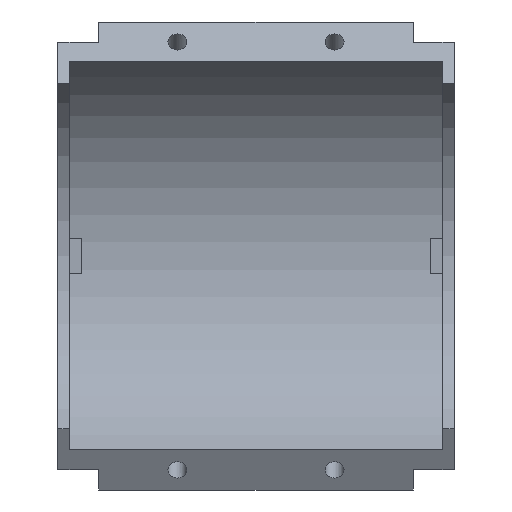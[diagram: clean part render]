
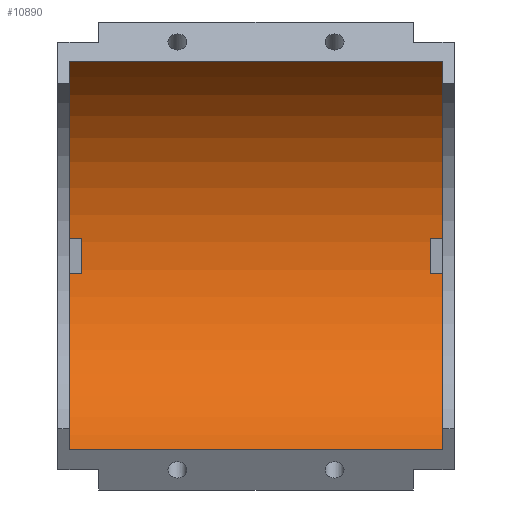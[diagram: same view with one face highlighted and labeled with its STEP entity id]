
A CAD part, top view. The second image highlights one B-rep face of the part: STEP entity #10890.
In plain terms, the highlighted cylindrical face has radius 38.3 mm (diameter 76.6 mm), a partial arc.
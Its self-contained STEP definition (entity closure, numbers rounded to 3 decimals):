
#44 = PLANE('',#45);
#45 = AXIS2_PLACEMENT_3D('',#46,#47,#48);
#46 = CARTESIAN_POINT('',(-34.9,-173.205,-100.));
#47 = DIRECTION('',(0.,-0.5,0.866));
#48 = DIRECTION('',(0.,0.866,0.5));
#101 = PLANE('',#102);
#102 = AXIS2_PLACEMENT_3D('',#103,#104,#105);
#103 = CARTESIAN_POINT('',(-34.9,0.,0.));
#104 = DIRECTION('',(0.,0.5,0.866));
#105 = DIRECTION('',(0.,0.866,-0.5));
#4377 = VERTEX_POINT('',#4378);
#4378 = CARTESIAN_POINT('',(35.9,-33.169,-19.15));
#4392 = PLANE('',#4393);
#4393 = AXIS2_PLACEMENT_3D('',#4394,#4395,#4396);
#4394 = CARTESIAN_POINT('',(35.9,0.,0.
    ));
#4395 = DIRECTION('',(1.,0.,0.));
#4396 = DIRECTION('',(0.,0.,-1.));
#4404 = EDGE_CURVE('',#4377,#4405,#4407,.T.);
#4405 = VERTEX_POINT('',#4406);
#4406 = CARTESIAN_POINT('',(-27.9,-33.169,-19.15));
#4407 = SURFACE_CURVE('',#4408,(#4412,#4419),.PCURVE_S1.);
#4408 = LINE('',#4409,#4410);
#4409 = CARTESIAN_POINT('',(35.9,-33.169,-19.15));
#4410 = VECTOR('',#4411,1.);
#4411 = DIRECTION('',(-1.,-0.,0.));
#4412 = PCURVE('',#44,#4413);
#4413 = DEFINITIONAL_REPRESENTATION('',(#4414),#4418);
#4414 = LINE('',#4415,#4416);
#4415 = CARTESIAN_POINT('',(161.7,-70.8));
#4416 = VECTOR('',#4417,1.);
#4417 = DIRECTION('',(0.,1.));
#4418 = ( GEOMETRIC_REPRESENTATION_CONTEXT(2) 
PARAMETRIC_REPRESENTATION_CONTEXT() REPRESENTATION_CONTEXT('2D SPACE',''
  ) );
#4419 = PCURVE('',#4420,#4425);
#4420 = CYLINDRICAL_SURFACE('',#4421,38.3);
#4421 = AXIS2_PLACEMENT_3D('',#4422,#4423,#4424);
#4422 = CARTESIAN_POINT('',(-29.9,0.,
    0.));
#4423 = DIRECTION('',(-1.,0.,0.));
#4424 = DIRECTION('',(0.,-1.,0.));
#4425 = DEFINITIONAL_REPRESENTATION('',(#4426),#4430);
#4426 = LINE('',#4427,#4428);
#4427 = CARTESIAN_POINT('',(-0.524,-65.8));
#4428 = VECTOR('',#4429,1.);
#4429 = DIRECTION('',(-0.,1.));
#4430 = ( GEOMETRIC_REPRESENTATION_CONTEXT(2) 
PARAMETRIC_REPRESENTATION_CONTEXT() REPRESENTATION_CONTEXT('2D SPACE',''
  ) );
#4448 = PLANE('',#4449);
#4449 = AXIS2_PLACEMENT_3D('',#4450,#4451,#4452);
#4450 = CARTESIAN_POINT('',(-27.9,0.,
    0.));
#4451 = DIRECTION('',(1.,0.,0.));
#4452 = DIRECTION('',(0.,0.,-1.));
#5020 = EDGE_CURVE('',#5021,#5023,#5025,.T.);
#5021 = VERTEX_POINT('',#5022);
#5022 = CARTESIAN_POINT('',(-27.9,33.169,-19.15));
#5023 = VERTEX_POINT('',#5024);
#5024 = CARTESIAN_POINT('',(35.9,33.169,-19.15));
#5025 = SURFACE_CURVE('',#5026,(#5030,#5037),.PCURVE_S1.);
#5026 = LINE('',#5027,#5028);
#5027 = CARTESIAN_POINT('',(-27.9,33.169,-19.15));
#5028 = VECTOR('',#5029,1.);
#5029 = DIRECTION('',(1.,0.,0.));
#5030 = PCURVE('',#101,#5031);
#5031 = DEFINITIONAL_REPRESENTATION('',(#5032),#5036);
#5032 = LINE('',#5033,#5034);
#5033 = CARTESIAN_POINT('',(38.3,-7.));
#5034 = VECTOR('',#5035,1.);
#5035 = DIRECTION('',(0.,-1.));
#5036 = ( GEOMETRIC_REPRESENTATION_CONTEXT(2) 
PARAMETRIC_REPRESENTATION_CONTEXT() REPRESENTATION_CONTEXT('2D SPACE',''
  ) );
#5037 = PCURVE('',#4420,#5038);
#5038 = DEFINITIONAL_REPRESENTATION('',(#5039),#5043);
#5039 = LINE('',#5040,#5041);
#5040 = CARTESIAN_POINT('',(-2.618,-2.));
#5041 = VECTOR('',#5042,1.);
#5042 = DIRECTION('',(-0.,-1.));
#5043 = ( GEOMETRIC_REPRESENTATION_CONTEXT(2) 
PARAMETRIC_REPRESENTATION_CONTEXT() REPRESENTATION_CONTEXT('2D SPACE',''
  ) );
#10748 = EDGE_CURVE('',#5023,#4377,#10749,.T.);
#10749 = SURFACE_CURVE('',#10750,(#10755,#10766),.PCURVE_S1.);
#10750 = CIRCLE('',#10751,38.3);
#10751 = AXIS2_PLACEMENT_3D('',#10752,#10753,#10754);
#10752 = CARTESIAN_POINT('',(35.9,0.,
    0.));
#10753 = DIRECTION('',(-1.,0.,0.));
#10754 = DIRECTION('',(0.,-1.,0.));
#10755 = PCURVE('',#4392,#10756);
#10756 = DEFINITIONAL_REPRESENTATION('',(#10757),#10765);
#10757 = ( BOUNDED_CURVE() B_SPLINE_CURVE(2,(#10758,#10759,#10760,#10761
    ,#10762,#10763,#10764),.UNSPECIFIED.,.T.,.F.) 
B_SPLINE_CURVE_WITH_KNOTS((1,2,2,2,2,1),(-2.094,0.,
    2.094,4.189,6.283,8.378),
.UNSPECIFIED.) CURVE() GEOMETRIC_REPRESENTATION_ITEM() 
RATIONAL_B_SPLINE_CURVE((1.,0.5,1.,0.5,1.,0.5,1.)) REPRESENTATION_ITEM(
  '') );
#10758 = CARTESIAN_POINT('',(0.,-38.3));
#10759 = CARTESIAN_POINT('',(-66.338,-38.3));
#10760 = CARTESIAN_POINT('',(-33.169,19.15));
#10761 = CARTESIAN_POINT('',(0.,76.6));
#10762 = CARTESIAN_POINT('',(33.169,19.15));
#10763 = CARTESIAN_POINT('',(66.338,-38.3));
#10764 = CARTESIAN_POINT('',(0.,-38.3));
#10765 = ( GEOMETRIC_REPRESENTATION_CONTEXT(2) 
PARAMETRIC_REPRESENTATION_CONTEXT() REPRESENTATION_CONTEXT('2D SPACE',''
  ) );
#10766 = PCURVE('',#4420,#10767);
#10767 = DEFINITIONAL_REPRESENTATION('',(#10768),#10772);
#10768 = LINE('',#10769,#10770);
#10769 = CARTESIAN_POINT('',(-6.283,-65.8));
#10770 = VECTOR('',#10771,1.);
#10771 = DIRECTION('',(1.,-0.));
#10772 = ( GEOMETRIC_REPRESENTATION_CONTEXT(2) 
PARAMETRIC_REPRESENTATION_CONTEXT() REPRESENTATION_CONTEXT('2D SPACE',''
  ) );
#10890 = ADVANCED_FACE('',(#10891),#4420,.F.);
#10891 = FACE_BOUND('',#10892,.T.);
#10892 = EDGE_LOOP('',(#10893,#10894,#10895,#10921));
#10893 = ORIENTED_EDGE('',*,*,#10748,.F.);
#10894 = ORIENTED_EDGE('',*,*,#5020,.F.);
#10895 = ORIENTED_EDGE('',*,*,#10896,.T.);
#10896 = EDGE_CURVE('',#5021,#4405,#10897,.T.);
#10897 = SURFACE_CURVE('',#10898,(#10903,#10910),.PCURVE_S1.);
#10898 = CIRCLE('',#10899,38.3);
#10899 = AXIS2_PLACEMENT_3D('',#10900,#10901,#10902);
#10900 = CARTESIAN_POINT('',(-27.9,0.,
    0.));
#10901 = DIRECTION('',(-1.,0.,0.));
#10902 = DIRECTION('',(0.,-1.,0.));
#10903 = PCURVE('',#4420,#10904);
#10904 = DEFINITIONAL_REPRESENTATION('',(#10905),#10909);
#10905 = LINE('',#10906,#10907);
#10906 = CARTESIAN_POINT('',(-6.283,-2.));
#10907 = VECTOR('',#10908,1.);
#10908 = DIRECTION('',(1.,-0.));
#10909 = ( GEOMETRIC_REPRESENTATION_CONTEXT(2) 
PARAMETRIC_REPRESENTATION_CONTEXT() REPRESENTATION_CONTEXT('2D SPACE',''
  ) );
#10910 = PCURVE('',#4448,#10911);
#10911 = DEFINITIONAL_REPRESENTATION('',(#10912),#10920);
#10912 = ( BOUNDED_CURVE() B_SPLINE_CURVE(2,(#10913,#10914,#10915,#10916
    ,#10917,#10918,#10919),.UNSPECIFIED.,.T.,.F.) 
B_SPLINE_CURVE_WITH_KNOTS((1,2,2,2,2,1),(-2.094,0.,
    2.094,4.189,6.283,8.378),
.UNSPECIFIED.) CURVE() GEOMETRIC_REPRESENTATION_ITEM() 
RATIONAL_B_SPLINE_CURVE((1.,0.5,1.,0.5,1.,0.5,1.)) REPRESENTATION_ITEM(
  '') );
#10913 = CARTESIAN_POINT('',(0.,-38.3));
#10914 = CARTESIAN_POINT('',(-66.338,-38.3));
#10915 = CARTESIAN_POINT('',(-33.169,19.15));
#10916 = CARTESIAN_POINT('',(0.,76.6));
#10917 = CARTESIAN_POINT('',(33.169,19.15));
#10918 = CARTESIAN_POINT('',(66.338,-38.3));
#10919 = CARTESIAN_POINT('',(0.,-38.3));
#10920 = ( GEOMETRIC_REPRESENTATION_CONTEXT(2) 
PARAMETRIC_REPRESENTATION_CONTEXT() REPRESENTATION_CONTEXT('2D SPACE',''
  ) );
#10921 = ORIENTED_EDGE('',*,*,#4404,.F.);
